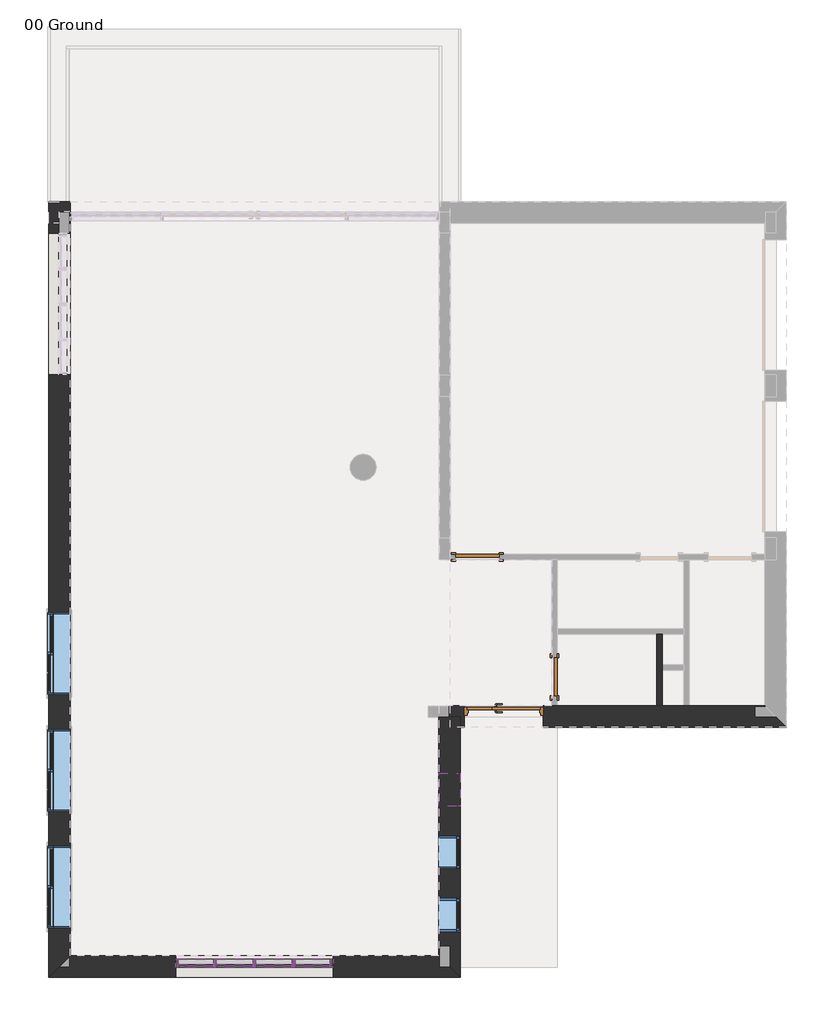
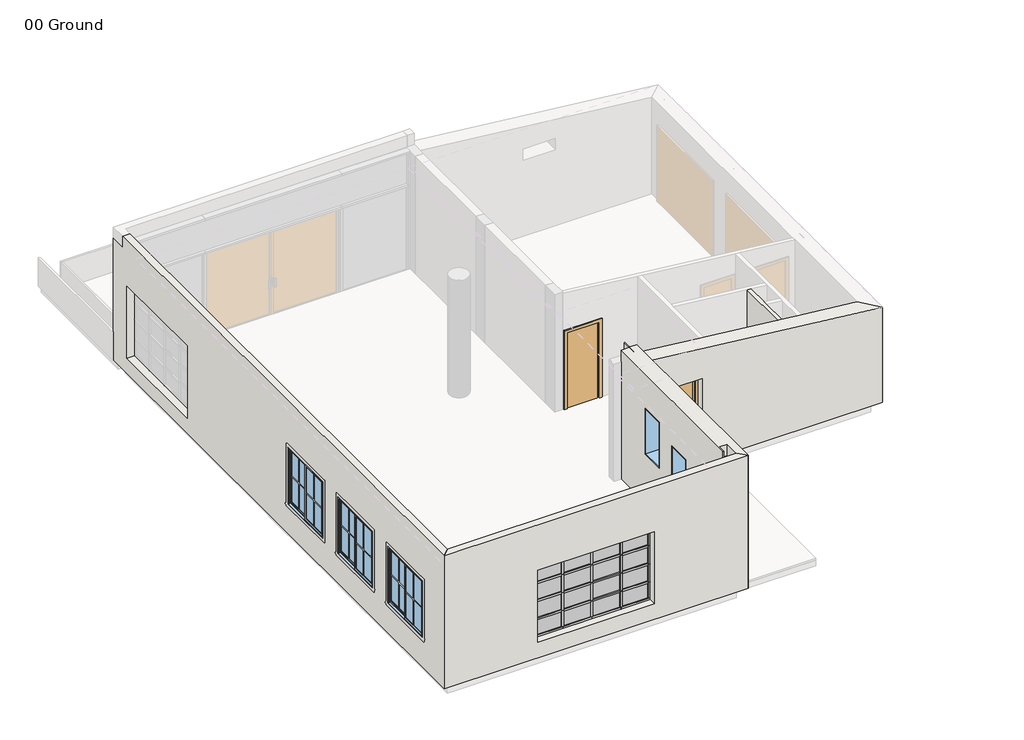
# One storey, part 1 of 3: 40 members, 16 plates, 6 windows, 5 walls, 3 doors.
"""IFC4 building model written with IfcOpenShell, lengths in millimetres."""

from ifc_helpers import new_model, si_unit, origin, place, context, project, spatial, faceted_brep, transform, mapped, element, save
from components import m_door_passage_uneven_flush_1350_x_2100mm_8cd78c95, m_single_flush_0700_x_2100mm_23326b45, m_single_flush_0800_x_2100mm_e1c1bfab, rectangular_mullion_50_x_150mm_fef40266, rectangular_mullion_50_x_150mm_4130c5bf, rectangular_mullion_50_x_150mm_a9044063, rectangular_mullion_50_x_150mm_1348d4e1, rectangular_mullion_50_x_150mm_89c22e8d, rectangular_mullion_50_x_150mm_42d59fea, rectangular_mullion_50_x_150mm_129a33a7, rectangular_mullion_50_x_150mm_05a43cda, system_panel_glazed_d9146cf5, system_panel_glazed_aea024ea, system_panel_glazed_24712de8, system_panel_glazed_68d5ac44, m_fixed_0610_x_1220mm_41f4d490, m_window_sliding_double_1500_x_1500mm_8cf3a065

model = new_model("IFC4")

# Units and contexts
model_context = context("Model", 3, world=origin())
ifc_project = project(units=[si_unit("LENGTHUNIT", "METRE", prefix="MILLI")], contexts=[model_context])

# Site, building, storey
site = spatial("IfcSite", under=ifc_project)
building = spatial("IfcBuilding", under=site)
storey = spatial("IfcBuildingStorey", under=building, Name="00 Ground", Elevation=0.0)

# Doors
placement = place(None, origin())
m_door_passage_uneven_flush_1350_x_2100mm_shape = m_door_passage_uneven_flush_1350_x_2100mm_8cd78c95(model_context)
element("IfcDoor", 1, ObjectType="M_Door-Passage-Uneven-Flush : 1350 x 2100mm", at=placement, inside=storey, context=model_context, shape_type="MappedRepresentation", body=[
    mapped(m_door_passage_uneven_flush_1350_x_2100mm_shape, transform((-132.5407999, -2955.0601648, 0.0), x_axis=(-1.0, 0.0, 0.0), y_axis=(0.0, -1.0, 0.0), z_axis=(0.0, 0.0, 1.0))),
])
m_single_flush_0700_x_2100mm_shape = m_single_flush_0700_x_2100mm_23326b45(model_context)
element("IfcDoor", 2, ObjectType="M_Single-Flush : 0700 x 2100mm", at=placement, inside=storey, context=model_context, shape_type="MappedRepresentation", body=[
    mapped(m_single_flush_0700_x_2100mm_shape, transform((796.9592001, -2219.7101648, 0.0), x_axis=(0.0, -1.0, 0.0), y_axis=(1.0, 0.0, 0.0), z_axis=(0.0, 0.0, 1.0))),
])
m_single_flush_0800_x_2100mm_shape = m_single_flush_0800_x_2100mm_e1c1bfab(model_context)
element("IfcDoor", 3, ObjectType="M_Single-Flush : 0800 x 2100mm", at=placement, inside=storey, context=model_context, shape_type="MappedRepresentation", body=[
    mapped(m_single_flush_0800_x_2100mm_shape, transform((-622.5407999, -12.7101648, 0.0), x_axis=(-1.0, 0.0, 0.0), y_axis=(0.0, -1.0, 0.0), z_axis=(0.0, 0.0, 1.0))),
])

# Members
rectangular_mullion_50_x_150mm_shape = rectangular_mullion_50_x_150mm_fef40266(model_context)
element("IfcMember", 4, ObjectType="Rectangular Mullion : 50 x 150mm", at=placement, inside=storey, context=model_context, shape_type="MappedRepresentation", body=[
    mapped(rectangular_mullion_50_x_150mm_shape, transform((-3272.5407999, -7487.7101648, 2300.0), x_axis=(0.0, 0.0, 1.0), y_axis=(0.0, -1.0, 0.0), z_axis=(1.0, 0.0, 0.0))),
])
element("IfcMember", 5, ObjectType="Rectangular Mullion : 50 x 150mm", at=placement, inside=storey, context=model_context, shape_type="MappedRepresentation", body=[
    mapped(rectangular_mullion_50_x_150mm_shape, transform((-5447.5407998, -7487.7101648, 2300.0), x_axis=(0.0, 0.0, 1.0), y_axis=(0.0, -1.0, 0.0), z_axis=(1.0, 0.0, 0.0))),
])
rectangular_mullion_50_x_150mm_2_shape = rectangular_mullion_50_x_150mm_4130c5bf(model_context)
element("IfcMember", 6, ObjectType="Rectangular Mullion : 50 x 150mm", at=placement, inside=storey, context=model_context, shape_type="MappedRepresentation", body=[
    mapped(rectangular_mullion_50_x_150mm_2_shape, transform((-4722.5407999, -7487.7101648, 2300.0), x_axis=(0.0, 0.0, 1.0), y_axis=(0.0, -1.0, 0.0), z_axis=(1.0, 0.0, 0.0))),
])
element("IfcMember", 7, ObjectType="Rectangular Mullion : 50 x 150mm", at=placement, inside=storey, context=model_context, shape_type="MappedRepresentation", body=[
    mapped(rectangular_mullion_50_x_150mm_2_shape, transform((-3997.5408001, -7487.7101648, 2300.0), x_axis=(0.0, 0.0, 1.0), y_axis=(0.0, -1.0, 0.0), z_axis=(1.0, 0.0, 0.0))),
])
element("IfcMember", 8, ObjectType="Rectangular Mullion : 50 x 150mm", at=placement, inside=storey, context=model_context, shape_type="MappedRepresentation", body=[
    mapped(rectangular_mullion_50_x_150mm_shape, transform((-6172.5407999, -7487.7101648, 400.0), x_axis=(0.0, 0.0, -1.0), y_axis=(0.0, -1.0, 0.0), z_axis=(-1.0, 0.0, 0.0))),
])
element("IfcMember", 9, ObjectType="Rectangular Mullion : 50 x 150mm", at=placement, inside=storey, context=model_context, shape_type="MappedRepresentation", body=[
    mapped(rectangular_mullion_50_x_150mm_2_shape, transform((-5447.5407998, -7487.7101648, 400.0), x_axis=(0.0, 0.0, -1.0), y_axis=(0.0, -1.0, 0.0), z_axis=(-1.0, 0.0, 0.0))),
])
element("IfcMember", 10, ObjectType="Rectangular Mullion : 50 x 150mm", at=placement, inside=storey, context=model_context, shape_type="MappedRepresentation", body=[
    mapped(rectangular_mullion_50_x_150mm_2_shape, transform((-4722.5407999, -7487.7101648, 400.0), x_axis=(0.0, 0.0, -1.0), y_axis=(0.0, -1.0, 0.0), z_axis=(-1.0, 0.0, 0.0))),
])
element("IfcMember", 11, ObjectType="Rectangular Mullion : 50 x 150mm", at=placement, inside=storey, context=model_context, shape_type="MappedRepresentation", body=[
    mapped(rectangular_mullion_50_x_150mm_shape, transform((-3997.5408001, -7487.7101648, 400.0), x_axis=(0.0, 0.0, -1.0), y_axis=(0.0, -1.0, 0.0), z_axis=(-1.0, 0.0, 0.0))),
])
rectangular_mullion_50_x_150mm_3_shape = rectangular_mullion_50_x_150mm_a9044063(model_context)
element("IfcMember", 12, ObjectType="Rectangular Mullion : 50 x 150mm", at=placement, inside=storey, context=model_context, shape_type="MappedRepresentation", body=[
    mapped(rectangular_mullion_50_x_150mm_3_shape, transform((-3322.5407999, -7487.7101648, 875.0), x_axis=(0.0, 0.0, 1.0), y_axis=(0.0, -1.0, 0.0), z_axis=(1.0, 0.0, 0.0))),
])
element("IfcMember", 13, ObjectType="Rectangular Mullion : 50 x 150mm", at=placement, inside=storey, context=model_context, shape_type="MappedRepresentation", body=[
    mapped(rectangular_mullion_50_x_150mm_3_shape, transform((-3322.5407999, -7487.7101648, 1350.0), x_axis=(0.0, 0.0, 1.0), y_axis=(0.0, -1.0, 0.0), z_axis=(1.0, 0.0, 0.0))),
])
element("IfcMember", 14, ObjectType="Rectangular Mullion : 50 x 150mm", at=placement, inside=storey, context=model_context, shape_type="MappedRepresentation", body=[
    mapped(rectangular_mullion_50_x_150mm_3_shape, transform((-3322.5407999, -7487.7101648, 1825.0), x_axis=(0.0, 0.0, 1.0), y_axis=(0.0, -1.0, 0.0), z_axis=(1.0, 0.0, 0.0))),
])
element("IfcMember", 15, ObjectType="Rectangular Mullion : 50 x 150mm", at=placement, inside=storey, context=model_context, shape_type="MappedRepresentation", body=[
    mapped(rectangular_mullion_50_x_150mm_3_shape, transform((-5472.5407998, -7487.7101648, 875.0), x_axis=(0.0, 0.0, 1.0), y_axis=(0.0, -1.0, 0.0), z_axis=(1.0, 0.0, 0.0))),
])
element("IfcMember", 16, ObjectType="Rectangular Mullion : 50 x 150mm", at=placement, inside=storey, context=model_context, shape_type="MappedRepresentation", body=[
    mapped(rectangular_mullion_50_x_150mm_3_shape, transform((-5472.5407998, -7487.7101648, 1350.0), x_axis=(0.0, 0.0, 1.0), y_axis=(0.0, -1.0, 0.0), z_axis=(1.0, 0.0, 0.0))),
])
element("IfcMember", 17, ObjectType="Rectangular Mullion : 50 x 150mm", at=placement, inside=storey, context=model_context, shape_type="MappedRepresentation", body=[
    mapped(rectangular_mullion_50_x_150mm_3_shape, transform((-5472.5407998, -7487.7101648, 1825.0), x_axis=(0.0, 0.0, 1.0), y_axis=(0.0, -1.0, 0.0), z_axis=(1.0, 0.0, 0.0))),
])
rectangular_mullion_50_x_150mm_4_shape = rectangular_mullion_50_x_150mm_1348d4e1(model_context)
element("IfcMember", 18, ObjectType="Rectangular Mullion : 50 x 150mm", at=placement, inside=storey, context=model_context, shape_type="MappedRepresentation", body=[
    mapped(rectangular_mullion_50_x_150mm_4_shape, transform((-4747.5407999, -7487.7101648, 875.0), x_axis=(0.0, 0.0, 1.0), y_axis=(0.0, -1.0, 0.0), z_axis=(1.0, 0.0, 0.0))),
])
element("IfcMember", 19, ObjectType="Rectangular Mullion : 50 x 150mm", at=placement, inside=storey, context=model_context, shape_type="MappedRepresentation", body=[
    mapped(rectangular_mullion_50_x_150mm_4_shape, transform((-4022.5408001, -7487.7101648, 875.0), x_axis=(0.0, 0.0, 1.0), y_axis=(0.0, -1.0, 0.0), z_axis=(1.0, 0.0, 0.0))),
])
element("IfcMember", 20, ObjectType="Rectangular Mullion : 50 x 150mm", at=placement, inside=storey, context=model_context, shape_type="MappedRepresentation", body=[
    mapped(rectangular_mullion_50_x_150mm_4_shape, transform((-4747.5407999, -7487.7101648, 1350.0), x_axis=(0.0, 0.0, 1.0), y_axis=(0.0, -1.0, 0.0), z_axis=(1.0, 0.0, 0.0))),
])
element("IfcMember", 21, ObjectType="Rectangular Mullion : 50 x 150mm", at=placement, inside=storey, context=model_context, shape_type="MappedRepresentation", body=[
    mapped(rectangular_mullion_50_x_150mm_4_shape, transform((-4022.5408001, -7487.7101648, 1350.0), x_axis=(0.0, 0.0, 1.0), y_axis=(0.0, -1.0, 0.0), z_axis=(1.0, 0.0, 0.0))),
])
element("IfcMember", 22, ObjectType="Rectangular Mullion : 50 x 150mm", at=placement, inside=storey, context=model_context, shape_type="MappedRepresentation", body=[
    mapped(rectangular_mullion_50_x_150mm_4_shape, transform((-4747.5407999, -7487.7101648, 1825.0), x_axis=(0.0, 0.0, 1.0), y_axis=(0.0, -1.0, 0.0), z_axis=(1.0, 0.0, 0.0))),
])
element("IfcMember", 23, ObjectType="Rectangular Mullion : 50 x 150mm", at=placement, inside=storey, context=model_context, shape_type="MappedRepresentation", body=[
    mapped(rectangular_mullion_50_x_150mm_4_shape, transform((-4022.5408001, -7487.7101648, 1825.0), x_axis=(0.0, 0.0, 1.0), y_axis=(0.0, -1.0, 0.0), z_axis=(1.0, 0.0, 0.0))),
])
rectangular_mullion_50_x_150mm_5_shape = rectangular_mullion_50_x_150mm_89c22e8d(model_context)
element("IfcMember", 24, ObjectType="Rectangular Mullion : 50 x 150mm", at=placement, inside=storey, context=model_context, shape_type="MappedRepresentation", body=[
    mapped(rectangular_mullion_50_x_150mm_5_shape, transform((-3272.5407999, -7487.7101648, 450.0), x_axis=(1.0, 0.0, 0.0), y_axis=(0.0, -1.0, 0.0), z_axis=(0.0, 0.0, -1.0))),
])
rectangular_mullion_50_x_150mm_6_shape = rectangular_mullion_50_x_150mm_42d59fea(model_context)
element("IfcMember", 25, ObjectType="Rectangular Mullion : 50 x 150mm", at=placement, inside=storey, context=model_context, shape_type="MappedRepresentation", body=[
    mapped(rectangular_mullion_50_x_150mm_6_shape, transform((-3272.5407999, -7487.7101648, 875.0), x_axis=(1.0, 0.0, 0.0), y_axis=(0.0, -1.0, 0.0), z_axis=(0.0, 0.0, -1.0))),
])
element("IfcMember", 26, ObjectType="Rectangular Mullion : 50 x 150mm", at=placement, inside=storey, context=model_context, shape_type="MappedRepresentation", body=[
    mapped(rectangular_mullion_50_x_150mm_6_shape, transform((-3272.5407999, -7487.7101648, 1350.0), x_axis=(1.0, 0.0, 0.0), y_axis=(0.0, -1.0, 0.0), z_axis=(0.0, 0.0, -1.0))),
])
element("IfcMember", 27, ObjectType="Rectangular Mullion : 50 x 150mm", at=placement, inside=storey, context=model_context, shape_type="MappedRepresentation", body=[
    mapped(rectangular_mullion_50_x_150mm_5_shape, transform((-3272.5407999, -7487.7101648, 1825.0), x_axis=(1.0, 0.0, 0.0), y_axis=(0.0, -1.0, 0.0), z_axis=(0.0, 0.0, -1.0))),
])
element("IfcMember", 28, ObjectType="Rectangular Mullion : 50 x 150mm", at=placement, inside=storey, context=model_context, shape_type="MappedRepresentation", body=[
    mapped(rectangular_mullion_50_x_150mm_5_shape, transform((-6172.5407999, -7487.7101648, 2250.0), x_axis=(-1.0, 0.0, 0.0), y_axis=(0.0, -1.0, 0.0), z_axis=(0.0, 0.0, 1.0))),
])
element("IfcMember", 29, ObjectType="Rectangular Mullion : 50 x 150mm", at=placement, inside=storey, context=model_context, shape_type="MappedRepresentation", body=[
    mapped(rectangular_mullion_50_x_150mm_5_shape, transform((-6172.5407999, -7487.7101648, 875.0), x_axis=(-1.0, 0.0, 0.0), y_axis=(0.0, -1.0, 0.0), z_axis=(0.0, 0.0, 1.0))),
])
element("IfcMember", 30, ObjectType="Rectangular Mullion : 50 x 150mm", at=placement, inside=storey, context=model_context, shape_type="MappedRepresentation", body=[
    mapped(rectangular_mullion_50_x_150mm_6_shape, transform((-6172.5407999, -7487.7101648, 1350.0), x_axis=(-1.0, 0.0, 0.0), y_axis=(0.0, -1.0, 0.0), z_axis=(0.0, 0.0, 1.0))),
])
element("IfcMember", 31, ObjectType="Rectangular Mullion : 50 x 150mm", at=placement, inside=storey, context=model_context, shape_type="MappedRepresentation", body=[
    mapped(rectangular_mullion_50_x_150mm_6_shape, transform((-6172.5407999, -7487.7101648, 1825.0), x_axis=(-1.0, 0.0, 0.0), y_axis=(0.0, -1.0, 0.0), z_axis=(0.0, 0.0, 1.0))),
])
rectangular_mullion_50_x_150mm_7_shape = rectangular_mullion_50_x_150mm_129a33a7(model_context)
element("IfcMember", 32, ObjectType="Rectangular Mullion : 50 x 150mm", at=placement, inside=storey, context=model_context, shape_type="MappedRepresentation", body=[
    mapped(rectangular_mullion_50_x_150mm_7_shape, transform((-5447.5407998, -7487.7101648, 450.0), x_axis=(1.0, 0.0, 0.0), y_axis=(0.0, -1.0, 0.0), z_axis=(0.0, 0.0, -1.0))),
])
element("IfcMember", 33, ObjectType="Rectangular Mullion : 50 x 150mm", at=placement, inside=storey, context=model_context, shape_type="MappedRepresentation", body=[
    mapped(rectangular_mullion_50_x_150mm_7_shape, transform((-4722.5407999, -7487.7101648, 450.0), x_axis=(1.0, 0.0, 0.0), y_axis=(0.0, -1.0, 0.0), z_axis=(0.0, 0.0, -1.0))),
])
element("IfcMember", 34, ObjectType="Rectangular Mullion : 50 x 150mm", at=placement, inside=storey, context=model_context, shape_type="MappedRepresentation", body=[
    mapped(rectangular_mullion_50_x_150mm_7_shape, transform((-3997.5408001, -7487.7101648, 450.0), x_axis=(1.0, 0.0, 0.0), y_axis=(0.0, -1.0, 0.0), z_axis=(0.0, 0.0, -1.0))),
])
rectangular_mullion_50_x_150mm_8_shape = rectangular_mullion_50_x_150mm_05a43cda(model_context)
element("IfcMember", 35, ObjectType="Rectangular Mullion : 50 x 150mm", at=placement, inside=storey, context=model_context, shape_type="MappedRepresentation", body=[
    mapped(rectangular_mullion_50_x_150mm_8_shape, transform((-5447.5407998, -7487.7101648, 875.0), x_axis=(1.0, 0.0, 0.0), y_axis=(0.0, -1.0, 0.0), z_axis=(0.0, 0.0, -1.0))),
])
element("IfcMember", 36, ObjectType="Rectangular Mullion : 50 x 150mm", at=placement, inside=storey, context=model_context, shape_type="MappedRepresentation", body=[
    mapped(rectangular_mullion_50_x_150mm_8_shape, transform((-4722.5407999, -7487.7101648, 875.0), x_axis=(1.0, 0.0, 0.0), y_axis=(0.0, -1.0, 0.0), z_axis=(0.0, 0.0, -1.0))),
])
element("IfcMember", 37, ObjectType="Rectangular Mullion : 50 x 150mm", at=placement, inside=storey, context=model_context, shape_type="MappedRepresentation", body=[
    mapped(rectangular_mullion_50_x_150mm_8_shape, transform((-3997.5408001, -7487.7101648, 875.0), x_axis=(1.0, 0.0, 0.0), y_axis=(0.0, -1.0, 0.0), z_axis=(0.0, 0.0, -1.0))),
])
element("IfcMember", 38, ObjectType="Rectangular Mullion : 50 x 150mm", at=placement, inside=storey, context=model_context, shape_type="MappedRepresentation", body=[
    mapped(rectangular_mullion_50_x_150mm_8_shape, transform((-5447.5407998, -7487.7101648, 1350.0), x_axis=(1.0, 0.0, 0.0), y_axis=(0.0, -1.0, 0.0), z_axis=(0.0, 0.0, -1.0))),
])
element("IfcMember", 39, ObjectType="Rectangular Mullion : 50 x 150mm", at=placement, inside=storey, context=model_context, shape_type="MappedRepresentation", body=[
    mapped(rectangular_mullion_50_x_150mm_8_shape, transform((-4722.5407999, -7487.7101648, 1350.0), x_axis=(1.0, 0.0, 0.0), y_axis=(0.0, -1.0, 0.0), z_axis=(0.0, 0.0, -1.0))),
])
element("IfcMember", 40, ObjectType="Rectangular Mullion : 50 x 150mm", at=placement, inside=storey, context=model_context, shape_type="MappedRepresentation", body=[
    mapped(rectangular_mullion_50_x_150mm_8_shape, transform((-3997.5408001, -7487.7101648, 1350.0), x_axis=(1.0, 0.0, 0.0), y_axis=(0.0, -1.0, 0.0), z_axis=(0.0, 0.0, -1.0))),
])
element("IfcMember", 41, ObjectType="Rectangular Mullion : 50 x 150mm", at=placement, inside=storey, context=model_context, shape_type="MappedRepresentation", body=[
    mapped(rectangular_mullion_50_x_150mm_7_shape, transform((-5447.5407998, -7487.7101648, 1825.0), x_axis=(1.0, 0.0, 0.0), y_axis=(0.0, -1.0, 0.0), z_axis=(0.0, 0.0, -1.0))),
])
element("IfcMember", 42, ObjectType="Rectangular Mullion : 50 x 150mm", at=placement, inside=storey, context=model_context, shape_type="MappedRepresentation", body=[
    mapped(rectangular_mullion_50_x_150mm_7_shape, transform((-4722.5407999, -7487.7101648, 1825.0), x_axis=(1.0, 0.0, 0.0), y_axis=(0.0, -1.0, 0.0), z_axis=(0.0, 0.0, -1.0))),
])
element("IfcMember", 43, ObjectType="Rectangular Mullion : 50 x 150mm", at=placement, inside=storey, context=model_context, shape_type="MappedRepresentation", body=[
    mapped(rectangular_mullion_50_x_150mm_7_shape, transform((-3997.5408001, -7487.7101648, 1825.0), x_axis=(1.0, 0.0, 0.0), y_axis=(0.0, -1.0, 0.0), z_axis=(0.0, 0.0, -1.0))),
])

# Plates
system_panel_glazed_shape = system_panel_glazed_d9146cf5(model_context)
element("IfcPlate", 44, ObjectType="System Panel : Glazed", at=placement, inside=storey, context=model_context, shape_type="MappedRepresentation", body=[
    mapped(system_panel_glazed_shape, transform((-5797.5407999, -7487.7101648, 900.0), x_axis=(1.0, 0.0, 0.0), y_axis=(0.0, 1.0, 0.0), z_axis=(0.0, 0.0, 1.0))),
])
element("IfcPlate", 45, ObjectType="System Panel : Glazed", at=placement, inside=storey, context=model_context, shape_type="MappedRepresentation", body=[
    mapped(system_panel_glazed_shape, transform((-3647.5408, -7487.7101648, 900.0), x_axis=(1.0, 0.0, 0.0), y_axis=(0.0, 1.0, 0.0), z_axis=(0.0, 0.0, 1.0))),
])
element("IfcPlate", 46, ObjectType="System Panel : Glazed", at=placement, inside=storey, context=model_context, shape_type="MappedRepresentation", body=[
    mapped(system_panel_glazed_shape, transform((-5797.5407999, -7487.7101648, 1375.0), x_axis=(1.0, 0.0, 0.0), y_axis=(0.0, 1.0, 0.0), z_axis=(0.0, 0.0, 1.0))),
])
element("IfcPlate", 47, ObjectType="System Panel : Glazed", at=placement, inside=storey, context=model_context, shape_type="MappedRepresentation", body=[
    mapped(system_panel_glazed_shape, transform((-3647.5408, -7487.7101648, 1375.0), x_axis=(1.0, 0.0, 0.0), y_axis=(0.0, 1.0, 0.0), z_axis=(0.0, 0.0, 1.0))),
])
system_panel_glazed_2_shape = system_panel_glazed_aea024ea(model_context)
element("IfcPlate", 48, ObjectType="System Panel : Glazed", at=placement, inside=storey, context=model_context, shape_type="MappedRepresentation", body=[
    mapped(system_panel_glazed_2_shape, transform((-5085.0407999, -7487.7101648, 900.0), x_axis=(1.0, 0.0, 0.0), y_axis=(0.0, 1.0, 0.0), z_axis=(0.0, 0.0, 1.0))),
])
element("IfcPlate", 49, ObjectType="System Panel : Glazed", at=placement, inside=storey, context=model_context, shape_type="MappedRepresentation", body=[
    mapped(system_panel_glazed_2_shape, transform((-4360.0408, -7487.7101648, 900.0), x_axis=(1.0, 0.0, 0.0), y_axis=(0.0, 1.0, 0.0), z_axis=(0.0, 0.0, 1.0))),
])
element("IfcPlate", 50, ObjectType="System Panel : Glazed", at=placement, inside=storey, context=model_context, shape_type="MappedRepresentation", body=[
    mapped(system_panel_glazed_2_shape, transform((-5085.0407999, -7487.7101648, 1375.0), x_axis=(1.0, 0.0, 0.0), y_axis=(0.0, 1.0, 0.0), z_axis=(0.0, 0.0, 1.0))),
])
element("IfcPlate", 51, ObjectType="System Panel : Glazed", at=placement, inside=storey, context=model_context, shape_type="MappedRepresentation", body=[
    mapped(system_panel_glazed_2_shape, transform((-4360.0408, -7487.7101648, 1375.0), x_axis=(1.0, 0.0, 0.0), y_axis=(0.0, 1.0, 0.0), z_axis=(0.0, 0.0, 1.0))),
])
system_panel_glazed_3_shape = system_panel_glazed_24712de8(model_context)
element("IfcPlate", 52, ObjectType="System Panel : Glazed", at=placement, inside=storey, context=model_context, shape_type="MappedRepresentation", body=[
    mapped(system_panel_glazed_3_shape, transform((-5797.5407999, -7487.7101648, 450.0), x_axis=(1.0, 0.0, 0.0), y_axis=(0.0, 1.0, 0.0), z_axis=(0.0, 0.0, 1.0))),
])
element("IfcPlate", 53, ObjectType="System Panel : Glazed", at=placement, inside=storey, context=model_context, shape_type="MappedRepresentation", body=[
    mapped(system_panel_glazed_3_shape, transform((-3647.5408, -7487.7101648, 450.0), x_axis=(1.0, 0.0, 0.0), y_axis=(0.0, 1.0, 0.0), z_axis=(0.0, 0.0, 1.0))),
])
element("IfcPlate", 54, ObjectType="System Panel : Glazed", at=placement, inside=storey, context=model_context, shape_type="MappedRepresentation", body=[
    mapped(system_panel_glazed_3_shape, transform((-5797.5407999, -7487.7101648, 1850.0), x_axis=(1.0, 0.0, 0.0), y_axis=(0.0, 1.0, 0.0), z_axis=(0.0, 0.0, 1.0))),
])
element("IfcPlate", 55, ObjectType="System Panel : Glazed", at=placement, inside=storey, context=model_context, shape_type="MappedRepresentation", body=[
    mapped(system_panel_glazed_3_shape, transform((-3647.5408, -7487.7101648, 1850.0), x_axis=(1.0, 0.0, 0.0), y_axis=(0.0, 1.0, 0.0), z_axis=(0.0, 0.0, 1.0))),
])
system_panel_glazed_4_shape = system_panel_glazed_68d5ac44(model_context)
element("IfcPlate", 56, ObjectType="System Panel : Glazed", at=placement, inside=storey, context=model_context, shape_type="MappedRepresentation", body=[
    mapped(system_panel_glazed_4_shape, transform((-5085.0407999, -7487.7101648, 450.0), x_axis=(1.0, 0.0, 0.0), y_axis=(0.0, 1.0, 0.0), z_axis=(0.0, 0.0, 1.0))),
])
element("IfcPlate", 57, ObjectType="System Panel : Glazed", at=placement, inside=storey, context=model_context, shape_type="MappedRepresentation", body=[
    mapped(system_panel_glazed_4_shape, transform((-4360.0408, -7487.7101648, 450.0), x_axis=(1.0, 0.0, 0.0), y_axis=(0.0, 1.0, 0.0), z_axis=(0.0, 0.0, 1.0))),
])
element("IfcPlate", 58, ObjectType="System Panel : Glazed", at=placement, inside=storey, context=model_context, shape_type="MappedRepresentation", body=[
    mapped(system_panel_glazed_4_shape, transform((-5085.0407999, -7487.7101648, 1850.0), x_axis=(1.0, 0.0, 0.0), y_axis=(0.0, 1.0, 0.0), z_axis=(0.0, 0.0, 1.0))),
])
element("IfcPlate", 59, ObjectType="System Panel : Glazed", at=placement, inside=storey, context=model_context, shape_type="MappedRepresentation", body=[
    mapped(system_panel_glazed_4_shape, transform((-4360.0408, -7487.7101648, 1850.0), x_axis=(1.0, 0.0, 0.0), y_axis=(0.0, 1.0, 0.0), z_axis=(0.0, 0.0, 1.0))),
])

# Walls
element("IfcWall", 60, ObjectType="Exterior - Brick on CMU", at=placement, inside=storey, context=model_context, shape_type="Brep", body=[
    faceted_brep([(-937.5407999, -7747.7101648, 0.0), (-937.5407999, -2948.7101648, 0.0), (-937.5407999, -2948.7101648, 3500.0), (-937.5407999, -7747.7101648, 3500.0), (-937.5407999, -3992.7101648, 2600.0), (-937.5407999, -3992.7101648, 1380.0), (-937.5407999, -4602.7101648, 1380.0), (-937.5407999, -4602.7101648, 2600.0), (-937.5407999, -5142.7101648, 2300.0), (-937.5407999, -5142.7101648, 1080.0), (-937.5407999, -5752.7101648, 1080.0), (-937.5407999, -5752.7101648, 2300.0), (-937.5407999, -6292.7101648, 2000.0), (-937.5407999, -6292.7101648, 780.0), (-937.5407999, -6902.7101648, 780.0), (-937.5407999, -6902.7101648, 2000.0), (-1335.5407999, -7349.7101648, 0.0), (-1335.5407999, -7349.7101648, 3500.0), (-1335.5407999, -2962.7101648, 3500.0), (-1335.5407999, -2962.7101648, 0.0), (-1335.5407999, -3992.7101648, 1380.0), (-1335.5407999, -3992.7101648, 2600.0), (-1335.5407999, -4602.7101648, 2600.0), (-1335.5407999, -4602.7101648, 1380.0), (-1335.5407999, -5142.7101648, 1080.0), (-1335.5407999, -5142.7101648, 2300.0), (-1335.5407999, -5752.7101648, 2300.0), (-1335.5407999, -5752.7101648, 1080.0), (-1335.5407999, -6292.7101648, 780.0), (-1335.5407999, -6292.7101648, 2000.0), (-1335.5407999, -6902.7101648, 2000.0), (-1335.5407999, -6902.7101648, 780.0), (-1122.5407999, -7562.7101648, 0.0), (-1122.5407999, -7162.7101648, 0.0), (-1322.5407999, -7162.7101648, 0.0), (-1322.5407999, -7362.7101648, 0.0), (-1122.5407999, -2962.7101648, 0.0), (-1122.5407999, -2948.7101648, 0.0), (-1122.5407999, -2948.7101648, 3500.0), (-1122.5407999, -2962.7101648, 3500.0), (-1322.5407999, -7362.7101648, 3500.0), (-1322.5407999, -7162.7101648, 3500.0), (-1122.5407999, -7162.7101648, 3500.0), (-1122.5407999, -7562.7101648, 3500.0), (-1322.5407999, -7362.7101648, 3200.0), (-1122.5407999, -2962.7101648, 3200.0), (-1122.5407999, -7162.7101648, 3200.0), (-1322.5407999, -7162.7101648, 3200.0)], [[[0, 1, 2, 3], [4, 5, 6, 7], [8, 9, 10, 11], [12, 13, 14, 15]], [[16, 17, 18, 19], [20, 21, 22, 23], [24, 25, 26, 27], [28, 29, 30, 31]], [[1, 0, 32, 33, 34, 35, 16, 19, 36, 37]], [[2, 1, 37, 38]], [[3, 2, 38, 39, 18, 17, 40, 41, 42, 43]], [[0, 3, 43, 32]], [[17, 16, 35, 44, 40]], [[20, 5, 4, 21]], [[6, 23, 22, 7]], [[5, 20, 23, 6]], [[7, 22, 21, 4]], [[24, 9, 8, 25]], [[25, 8, 11, 26]], [[26, 11, 10, 27]], [[9, 24, 27, 10]], [[28, 13, 12, 29]], [[29, 12, 15, 30]], [[30, 15, 14, 31]], [[13, 28, 31, 14]], [[36, 45, 39, 38, 37]], [[39, 45, 36, 19, 18]], [[42, 46, 33, 32, 43]], [[34, 47, 41, 40, 44, 35]], [[33, 46, 42, 41, 47, 34]]]),
])
element("IfcWall", 61, ObjectType="Exterior - Brick on CMU", at=placement, inside=storey, context=model_context, shape_type="Brep", body=[
    faceted_brep([(-1136.5407999, -3147.7101648, 3500.0), (-1136.5407999, -3147.7101648, 0.0), (-857.5407999, -3147.7101648, 0.0), (-857.5407999, -3147.7101648, 2200.0), (592.4592001, -3147.7101648, 2200.0), (592.4592001, -3147.7101648, 0.0), (5062.4592001, -3147.7101648, 0.0), (5062.4592001, -3147.7101648, 2500.0), (-1122.5407999, -3147.7101648, 3160.0), (-1122.5407999, -3147.7101648, 3500.0), (-1136.5407999, -2749.7101648, 0.0), (-1136.5407999, -2749.7101648, 3500.0), (-1122.5407999, -2749.7101648, 3500.0), (-1122.5407999, -2749.7101648, 3160.0), (746.9592001, -2749.7101648, 2960.5060631), (846.9592001, -2749.7101648, 2949.8350849), (2677.4592001, -2749.7101648, 2754.5028294), (2777.4592001, -2749.7101648, 2743.8318513), (3177.4592001, -2749.7101648, 2701.1479386), (3277.4592001, -2749.7101648, 2690.4769604), (4664.4592001, -2749.7101648, 2542.4704931), (4664.4592001, -2749.7101648, 0.0), (3277.4592001, -2749.7101648, 0.0), (3177.4592001, -2749.7101648, 0.0), (2777.4592001, -2749.7101648, 0.0), (2677.4592001, -2749.7101648, 0.0), (846.9592001, -2749.7101648, 0.0), (746.9592001, -2749.7101648, 0.0), (592.4592001, -2749.7101648, 0.0), (592.4592001, -2749.7101648, 2200.0), (-857.5407999, -2749.7101648, 2200.0), (-857.5407999, -2749.7101648, 0.0), (4677.4592001, -2762.7101648, 0.0), (4477.4592001, -2762.7101648, 0.0), (4477.4592001, -2962.7101648, 0.0), (4877.4592001, -2962.7101648, 0.0), (4877.4592001, -2962.7101648, 2519.7413096), (4677.4592001, -2762.7101648, 2519.7413096), (4477.4592001, -2962.7101648, 2519.7413096), (4477.4592001, -2762.7101648, 2519.7413096)], [[[0, 1, 2, 3, 4, 5, 6, 7, 8, 9]], [[10, 11, 12, 13, 14, 15, 16, 17, 18, 19, 20, 21, 22, 23, 24, 25, 26, 27, 28, 29, 30, 31]], [[1, 10, 31, 2]], [[6, 5, 28, 27, 26, 25, 24, 23, 22, 21, 32, 33, 34, 35]], [[1, 0, 11, 10]], [[7, 6, 35, 36]], [[21, 20, 36, 37, 32]], [[38, 36, 35, 34]], [[33, 39, 38, 34]], [[39, 33, 32, 37]], [[36, 38, 39, 37]], [[30, 3, 2, 31]], [[3, 30, 29, 4]], [[4, 29, 28, 5]], [[11, 0, 9, 12]], [[12, 9, 8, 13]], [[8, 7, 36, 20, 19, 18, 17, 16, 15, 14, 13]]]),
])
element("IfcWall", 62, ObjectType="Exterior - Brick on CMU", at=placement, inside=storey, context=model_context, shape_type="Brep", body=[
    faceted_brep([(-1335.5407999, -7349.7101648, 0.0), (-8109.5407999, -7349.7101648, 0.0), (-8109.5407999, -7349.7101648, 3200.0), (-1335.5407999, -7349.7101648, 3200.0), (-6172.5407999, -7349.7101648, 2300.0), (-6172.5407999, -7349.7101648, 400.0), (-3272.5407999, -7349.7101648, 400.0), (-3272.5407999, -7349.7101648, 2300.0), (-8507.5407999, -7747.7101648, 0.0), (-937.5407999, -7747.7101648, 0.0), (-937.5407999, -7747.7101648, 3500.0), (-8507.5407999, -7747.7101648, 3500.0), (-6172.5407999, -7747.7101648, 400.0), (-6172.5407999, -7747.7101648, 2300.0), (-3272.5407999, -7747.7101648, 2300.0), (-3272.5407999, -7747.7101648, 400.0), (-1322.5407999, -7362.7101648, 0.0), (-1322.5407999, -7562.7101648, 0.0), (-1122.5407999, -7562.7101648, 0.0), (-8322.5407999, -7562.7101648, 0.0), (-8122.5407999, -7562.7101648, 0.0), (-8122.5407999, -7362.7101648, 0.0), (-1122.5407999, -7562.7101648, 3500.0), (-8322.5407999, -7562.7101648, 3500.0), (-1322.5407999, -7362.7101648, 3200.0), (-8122.5407999, -7362.7101648, 3200.0), (-8122.5407999, -7562.7101648, 3200.0), (-1322.5407999, -7562.7101648, 3200.0)], [[[0, 1, 2, 3], [4, 5, 6, 7]], [[8, 9, 10, 11], [12, 13, 14, 15]], [[1, 0, 16, 17, 18, 9, 8, 19, 20, 21]], [[11, 10, 22, 23]], [[10, 9, 18, 22]], [[16, 0, 3, 24]], [[8, 11, 23, 19]], [[1, 21, 25, 2]], [[4, 13, 12, 5]], [[13, 4, 7, 14]], [[14, 7, 6, 15]], [[5, 12, 15, 6]], [[21, 20, 26, 25]], [[20, 19, 23, 22, 18, 17, 27, 26]], [[17, 16, 24, 27]], [[26, 27, 24, 3, 2, 25]]]),
])
element("IfcWall", 63, ObjectType="Exterior - Brick on CMU", at=placement, inside=storey, context=model_context, shape_type="Brep", body=[
    faceted_brep([(-8109.5407999, -7349.7101648, 0.0), (-8109.5407999, 6522.2898352, 0.0), (-8109.5407999, 6522.2898352, 3200.0), (-8109.5407999, -7349.7101648, 3200.0), (-8109.5407999, 3337.2898352, 400.0), (-8109.5407999, 3337.2898352, 2300.0), (-8109.5407999, 5937.2898352, 2300.0), (-8109.5407999, 5937.2898352, 400.0), (-8109.5407999, -5337.7101648, 2300.0), (-8109.5407999, -5337.7101648, 800.0), (-8109.5407999, -6837.7101648, 800.0), (-8109.5407999, -6837.7101648, 2300.0), (-8109.5407999, -3187.7101648, 2300.0), (-8109.5407999, -3187.7101648, 800.0), (-8109.5407999, -4687.7101648, 800.0), (-8109.5407999, -4687.7101648, 2300.0), (-8109.5407999, -1037.7101648, 2300.0), (-8109.5407999, -1037.7101648, 800.0), (-8109.5407999, -2537.7101648, 800.0), (-8109.5407999, -2537.7101648, 2300.0), (-8507.5407999, 6522.2898352, 0.0), (-8507.5407999, -7747.7101648, 0.0), (-8507.5407999, -7747.7101648, 3500.0), (-8507.5407999, 6124.2898352, 3500.0), (-8507.5407999, 6124.2898352, 3200.0), (-8507.5407999, 6522.2898352, 3200.0), (-8507.5407999, 3337.2898352, 2300.0), (-8507.5407999, 3337.2898352, 400.0), (-8507.5407999, 5937.2898352, 400.0), (-8507.5407999, 5937.2898352, 2300.0), (-8507.5407999, -5337.7101648, 800.0), (-8507.5407999, -5337.7101648, 2300.0), (-8507.5407999, -6837.7101648, 2300.0), (-8507.5407999, -6837.7101648, 800.0), (-8507.5407999, -3187.7101648, 800.0), (-8507.5407999, -3187.7101648, 2300.0), (-8507.5407999, -4687.7101648, 2300.0), (-8507.5407999, -4687.7101648, 800.0), (-8507.5407999, -1037.7101648, 800.0), (-8507.5407999, -1037.7101648, 2300.0), (-8507.5407999, -2537.7101648, 2300.0), (-8507.5407999, -2537.7101648, 800.0), (-8122.5407999, -7362.7101648, 0.0), (-8322.5407999, -7562.7101648, 0.0), (-8322.5407999, 5937.2898352, 0.0), (-8122.5407999, 5937.2898352, 0.0), (-8122.5407999, 6337.2898352, 0.0), (-8322.5407999, 6337.2898352, 0.0), (-8122.5407999, -7362.7101648, 3200.0), (-8322.5407999, -7562.7101648, 3200.0), (-8322.5407999, -7562.7101648, 3500.0), (-8322.5407999, 5937.2898352, 2300.0), (-8122.5407999, 5937.2898352, 2300.0), (-8122.5407999, 5937.2898352, 400.0), (-8322.5407999, 5937.2898352, 400.0), (-8322.5407999, 5937.2898352, 3200.0), (-8122.5407999, 5937.2898352, 3200.0), (-8322.5407999, 6337.2898352, 3200.0), (-8322.5407999, 6124.2898352, 3200.0), (-8322.5407999, 6124.2898352, 3500.0), (-8122.5407999, 6337.2898352, 3200.0)], [[[0, 1, 2, 3], [4, 5, 6, 7], [8, 9, 10, 11], [12, 13, 14, 15], [16, 17, 18, 19]], [[20, 21, 22, 23, 24, 25], [26, 27, 28, 29], [30, 31, 32, 33], [34, 35, 36, 37], [38, 39, 40, 41]], [[1, 0, 42, 43, 21, 20], [44, 45, 46, 47]], [[1, 20, 25, 2]], [[22, 21, 43, 42, 0, 3, 48, 49, 50]], [[4, 27, 26, 5]], [[5, 26, 29, 51, 52, 6]], [[7, 6, 52, 53]], [[29, 28, 54, 51]], [[27, 4, 7, 53, 54, 28]], [[52, 51, 55, 56]], [[44, 54, 53, 45]], [[54, 44, 47, 57, 58, 59, 50, 49, 55, 51]], [[47, 46, 60, 57]], [[59, 58, 24, 23]], [[2, 25, 24, 58, 57, 60, 56, 55, 49, 48, 3]], [[9, 8, 31, 30]], [[10, 9, 30, 33]], [[11, 10, 33, 32]], [[8, 11, 32, 31]], [[13, 12, 35, 34]], [[14, 13, 34, 37]], [[15, 14, 37, 36]], [[12, 15, 36, 35]], [[17, 16, 39, 38]], [[18, 17, 38, 41]], [[19, 18, 41, 40]], [[16, 19, 40, 39]], [[45, 53, 52, 56, 60, 46]], [[23, 22, 50, 59]]]),
])
element("IfcWall", 64, ObjectType="Generic - 100mm", at=placement, inside=storey, context=model_context, shape_type="Brep", body=[
    faceted_brep([(2777.4592001, -2749.7101648, 0.0), (2777.4592001, -2097.7101648, 0.0), (2777.4592001, -1997.7101648, 0.0), (2777.4592001, -1432.7101648, 0.0), (2777.4592001, -1432.7101648, 2743.8318513), (2777.4592001, -1997.7101648, 2743.8318513), (2777.4592001, -2097.7101648, 2743.8318513), (2777.4592001, -2749.7101648, 2743.8318513), (2677.4592001, -2749.7101648, 0.0), (2677.4592001, -2749.7101648, 2754.5028294), (2677.4592001, -1432.7101648, 2754.5028294), (2677.4592001, -1432.7101648, 0.0)], [[[0, 1, 2, 3, 4, 5, 6, 7]], [[8, 9, 10, 11]], [[3, 2, 1, 0, 8, 11]], [[0, 7, 9, 8]], [[4, 3, 11, 10]], [[7, 6, 5, 4, 10, 9]]]),
])

# Windows
m_fixed_0610_x_1220mm_shape = m_fixed_0610_x_1220mm_41f4d490(model_context)
element("IfcWindow", 65, ObjectType="M_Fixed : 0610 x 1220mm", at=placement, inside=storey, context=model_context, shape_type="MappedRepresentation", body=[
    mapped(m_fixed_0610_x_1220mm_shape, transform((-1149.5407999, -6597.7101648, -135.0), x_axis=(0.0, -1.0, 0.0), y_axis=(1.0, 0.0, 0.0), z_axis=(0.0, 0.0, 1.0))),
])
element("IfcWindow", 66, ObjectType="M_Fixed : 0610 x 1220mm", at=placement, inside=storey, context=model_context, shape_type="MappedRepresentation", body=[
    mapped(m_fixed_0610_x_1220mm_shape, transform((-1149.5407999, -5447.7101648, 165.0), x_axis=(0.0, -1.0, 0.0), y_axis=(1.0, 0.0, 0.0), z_axis=(0.0, 0.0, 1.0))),
])
element("IfcWindow", 67, ObjectType="M_Fixed : 0610 x 1220mm", at=placement, inside=storey, context=model_context, shape_type="MappedRepresentation", body=[
    mapped(m_fixed_0610_x_1220mm_shape, transform((-1149.5407999, -4297.7101648, 465.0), x_axis=(0.0, -1.0, 0.0), y_axis=(1.0, 0.0, 0.0), z_axis=(0.0, 0.0, 1.0))),
])
m_window_sliding_double_1500_x_1500mm_shape = m_window_sliding_double_1500_x_1500mm_8cf3a065(model_context)
element("IfcWindow", 68, ObjectType="M_Window-Sliding-Double : 1500 x 1500mm", at=placement, inside=storey, context=model_context, shape_type="MappedRepresentation", body=[
    mapped(m_window_sliding_double_1500_x_1500mm_shape, transform((-8312.3507999, -6087.7101648, -100.0), x_axis=(0.0, 1.0, 0.0), y_axis=(-1.0, 0.0, 0.0), z_axis=(0.0, 0.0, 1.0))),
])
element("IfcWindow", 69, ObjectType="M_Window-Sliding-Double : 1500 x 1500mm", at=placement, inside=storey, context=model_context, shape_type="MappedRepresentation", body=[
    mapped(m_window_sliding_double_1500_x_1500mm_shape, transform((-8312.3507999, -3937.7101648, -100.0), x_axis=(0.0, 1.0, 0.0), y_axis=(-1.0, 0.0, 0.0), z_axis=(0.0, 0.0, 1.0))),
])
element("IfcWindow", 70, ObjectType="M_Window-Sliding-Double : 1500 x 1500mm", at=placement, inside=storey, context=model_context, shape_type="MappedRepresentation", body=[
    mapped(m_window_sliding_double_1500_x_1500mm_shape, transform((-8312.3507999, -1787.7101648, -100.0), x_axis=(0.0, 1.0, 0.0), y_axis=(-1.0, 0.0, 0.0), z_axis=(0.0, 0.0, 1.0))),
])

save(model, "model.ifc")
